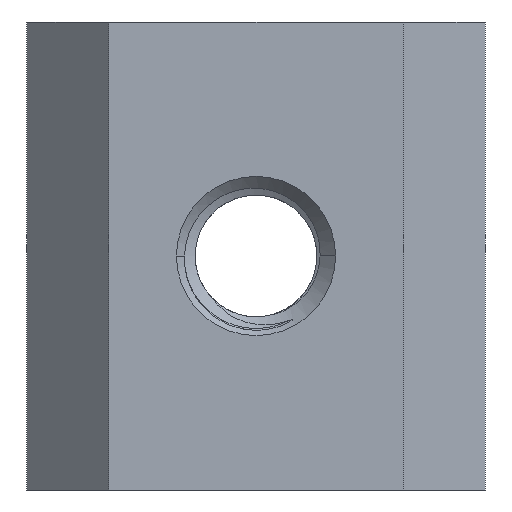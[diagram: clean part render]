
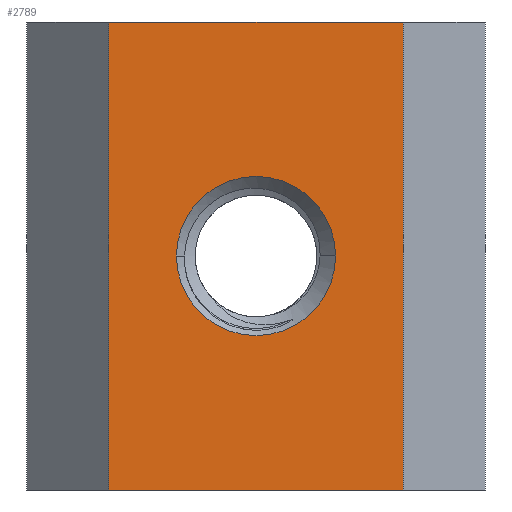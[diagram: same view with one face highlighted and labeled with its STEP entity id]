
A CAD part, front view. The second image highlights one B-rep face of the part: STEP entity #2789.
In plain terms, the highlighted planar face has unit normal (0, -1, 0).
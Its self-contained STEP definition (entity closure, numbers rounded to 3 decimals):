
#124 = CIRCLE ( 'NONE', #5077, 3.4 ) ;
#300 = AXIS2_PLACEMENT_3D ( 'NONE', #3322, #1260, #4875 ) ;
#325 = DIRECTION ( 'NONE',  ( 0., 1., 0. ) ) ;
#388 = VERTEX_POINT ( 'NONE', #2901 ) ;
#417 = CARTESIAN_POINT ( 'NONE',  ( -6.3, 0., 10. ) ) ;
#463 = CARTESIAN_POINT ( 'NONE',  ( 6.3, 0., 10. ) ) ;
#745 = DIRECTION ( 'NONE',  ( -1., 0., 0. ) ) ;
#841 = ORIENTED_EDGE ( 'NONE', *, *, #1629, .F. ) ;
#842 = CARTESIAN_POINT ( 'NONE',  ( 6.3, 0., 10. ) ) ;
#880 = VECTOR ( 'NONE', #4549, 1000. ) ;
#902 = LINE ( 'NONE', #1669, #880 ) ;
#928 = LINE ( 'NONE', #463, #4406 ) ;
#1018 = CARTESIAN_POINT ( 'NONE',  ( -6.3, 0., -10. ) ) ;
#1244 = DIRECTION ( 'NONE',  ( 0., 1., 0. ) ) ;
#1260 = DIRECTION ( 'NONE',  ( 0., 1., 0. ) ) ;
#1468 = VECTOR ( 'NONE', #1523, 1000. ) ;
#1523 = DIRECTION ( 'NONE',  ( 1., 0., 0. ) ) ;
#1590 = DIRECTION ( 'NONE',  ( -1., 0., 0. ) ) ;
#1629 = EDGE_CURVE ( 'NONE', #2559, #3220, #4004, .T. ) ;
#1669 = CARTESIAN_POINT ( 'NONE',  ( -6.3, 0., 10. ) ) ;
#1887 = FACE_OUTER_BOUND ( 'NONE', #4863, .T. ) ;
#2220 = EDGE_CURVE ( 'NONE', #2559, #5184, #902, .T. ) ;
#2227 = EDGE_CURVE ( 'NONE', #3220, #4573, #928, .T. ) ;
#2451 = EDGE_CURVE ( 'NONE', #5184, #4573, #2695, .T. ) ;
#2559 = VERTEX_POINT ( 'NONE', #3714 ) ;
#2609 = DIRECTION ( 'NONE',  ( 1., 0., 0. ) ) ;
#2695 = LINE ( 'NONE', #4264, #4138 ) ;
#2789 = ADVANCED_FACE ( 'NONE', ( #3913, #1887 ), #4339, .F. ) ;
#2863 = CARTESIAN_POINT ( 'NONE',  ( 3.4, 0., 0. ) ) ;
#2901 = CARTESIAN_POINT ( 'NONE',  ( -3.4, 0., 0. ) ) ;
#3127 = CARTESIAN_POINT ( 'NONE',  ( 6.3, 0., -10. ) ) ;
#3179 = CARTESIAN_POINT ( 'NONE',  ( -6.3, 0., 10. ) ) ;
#3220 = VERTEX_POINT ( 'NONE', #842 ) ;
#3233 = CARTESIAN_POINT ( 'NONE',  ( 0., 0., 0. ) ) ;
#3307 = CIRCLE ( 'NONE', #300, 3.4 ) ;
#3322 = CARTESIAN_POINT ( 'NONE',  ( 0., 0., 0. ) ) ;
#3372 = EDGE_CURVE ( 'NONE', #4206, #388, #3307, .T. ) ;
#3446 = ORIENTED_EDGE ( 'NONE', *, *, #2451, .T. ) ;
#3466 = ORIENTED_EDGE ( 'NONE', *, *, #2220, .T. ) ;
#3714 = CARTESIAN_POINT ( 'NONE',  ( -6.3, 0., 10. ) ) ;
#3913 = FACE_BOUND ( 'NONE', #4530, .T. ) ;
#3972 = ORIENTED_EDGE ( 'NONE', *, *, #2227, .F. ) ;
#4004 = LINE ( 'NONE', #417, #1468 ) ;
#4079 = DIRECTION ( 'NONE',  ( 0., 0., -1. ) ) ;
#4082 = EDGE_CURVE ( 'NONE', #388, #4206, #124, .T. ) ;
#4138 = VECTOR ( 'NONE', #2609, 1000. ) ;
#4206 = VERTEX_POINT ( 'NONE', #2863 ) ;
#4264 = CARTESIAN_POINT ( 'NONE',  ( -6.3, 0., -10. ) ) ;
#4339 = PLANE ( 'NONE',  #4653 ) ;
#4406 = VECTOR ( 'NONE', #4079, 1000. ) ;
#4530 = EDGE_LOOP ( 'NONE', ( #4991, #4738 ) ) ;
#4549 = DIRECTION ( 'NONE',  ( 0., 0., -1. ) ) ;
#4573 = VERTEX_POINT ( 'NONE', #3127 ) ;
#4653 = AXIS2_PLACEMENT_3D ( 'NONE', #3179, #325, #745 ) ;
#4738 = ORIENTED_EDGE ( 'NONE', *, *, #4082, .T. ) ;
#4863 = EDGE_LOOP ( 'NONE', ( #3446, #3972, #841, #3466 ) ) ;
#4875 = DIRECTION ( 'NONE',  ( -1., 0., 0. ) ) ;
#4991 = ORIENTED_EDGE ( 'NONE', *, *, #3372, .T. ) ;
#5077 = AXIS2_PLACEMENT_3D ( 'NONE', #3233, #1244, #1590 ) ;
#5184 = VERTEX_POINT ( 'NONE', #1018 ) ;
